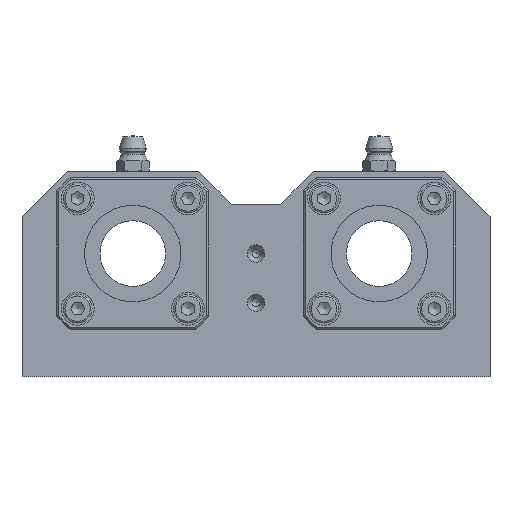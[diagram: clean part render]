
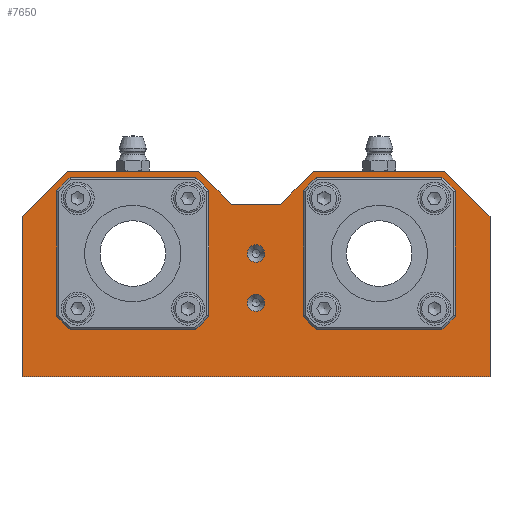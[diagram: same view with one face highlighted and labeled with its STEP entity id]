
A CAD part, left-side view. The second image highlights one B-rep face of the part: STEP entity #7650.
In plain terms, the highlighted planar face has unit normal (-1, 0, 0).
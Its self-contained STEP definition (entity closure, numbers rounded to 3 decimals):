
#7121=CARTESIAN_POINT('',(0.0,-57.0,0.0));
#7122=VERTEX_POINT('',#7121);
#7129=CARTESIAN_POINT('',(0.0,57.0,0.0));
#7130=VERTEX_POINT('',#7129);
#7131=CARTESIAN_POINT('',(0.0,57.0,0.0));
#7132=DIRECTION('',(0.0,-1.0,0.0));
#7133=VECTOR('',#7132,114.0);
#7134=LINE('',#7131,#7133);
#7135=EDGE_CURVE('',#7130,#7122,#7134,.T.);
#7190=CARTESIAN_POINT('',(0.0,-57.0,39.0));
#7191=VERTEX_POINT('',#7190);
#7198=CARTESIAN_POINT('',(0.0,-57.0,0.0));
#7199=DIRECTION('',(0.0,0.0,1.0));
#7200=VECTOR('',#7199,39.0);
#7201=LINE('',#7198,#7200);
#7202=EDGE_CURVE('',#7122,#7191,#7201,.T.);
#7431=CARTESIAN_POINT('',(0.0,14.,50.0));
#7432=VERTEX_POINT('',#7431);
#7439=CARTESIAN_POINT('',(0.0,6.,42.0));
#7440=VERTEX_POINT('',#7439);
#7441=CARTESIAN_POINT('',(0.0,14.,50.0));
#7442=DIRECTION('',(0.0,-0.707,-0.707));
#7443=VECTOR('',#7442,11.314);
#7444=LINE('',#7441,#7443);
#7445=EDGE_CURVE('',#7432,#7440,#7444,.T.);
#7456=CARTESIAN_POINT('',(0.0,-57.0,0.0));
#7457=DIRECTION('',(-1.0,0.0,0.0));
#7458=DIRECTION('',(0.0,0.0,1.0));
#7459=AXIS2_PLACEMENT_3D('',#7456,#7457,#7458);
#7460=PLANE('',#7459);
#7461=ORIENTED_EDGE('',*,*,#7445,.F.);
#7462=CARTESIAN_POINT('',(0.0,46.,50.0));
#7463=VERTEX_POINT('',#7462);
#7464=CARTESIAN_POINT('',(0.0,14.,50.0));
#7465=DIRECTION('',(0.0,1.0,0.0));
#7466=VECTOR('',#7465,32.);
#7467=LINE('',#7464,#7466);
#7468=EDGE_CURVE('',#7432,#7463,#7467,.T.);
#7469=ORIENTED_EDGE('',*,*,#7468,.T.);
#7470=CARTESIAN_POINT('',(0.0,57.0,39.0));
#7471=VERTEX_POINT('',#7470);
#7472=CARTESIAN_POINT('',(0.0,57.0,39.0));
#7473=DIRECTION('',(0.0,-0.707,0.707));
#7474=VECTOR('',#7473,15.556);
#7475=LINE('',#7472,#7474);
#7476=EDGE_CURVE('',#7471,#7463,#7475,.T.);
#7477=ORIENTED_EDGE('',*,*,#7476,.F.);
#7478=CARTESIAN_POINT('',(0.0,57.0,0.0));
#7479=DIRECTION('',(0.0,0.0,1.0));
#7480=VECTOR('',#7479,39.0);
#7481=LINE('',#7478,#7480);
#7482=EDGE_CURVE('',#7130,#7471,#7481,.T.);
#7483=ORIENTED_EDGE('',*,*,#7482,.F.);
#7484=ORIENTED_EDGE('',*,*,#7135,.T.);
#7485=ORIENTED_EDGE('',*,*,#7202,.T.);
#7486=CARTESIAN_POINT('',(0.0,-46.,50.0));
#7487=VERTEX_POINT('',#7486);
#7488=CARTESIAN_POINT('',(0.0,-46.,50.0));
#7489=DIRECTION('',(0.0,-0.707,-0.707));
#7490=VECTOR('',#7489,15.556);
#7491=LINE('',#7488,#7490);
#7492=EDGE_CURVE('',#7487,#7191,#7491,.T.);
#7493=ORIENTED_EDGE('',*,*,#7492,.F.);
#7494=CARTESIAN_POINT('',(0.0,-14.,50.0));
#7495=VERTEX_POINT('',#7494);
#7496=CARTESIAN_POINT('',(0.0,-46.,50.0));
#7497=DIRECTION('',(0.0,1.0,0.0));
#7498=VECTOR('',#7497,32.);
#7499=LINE('',#7496,#7498);
#7500=EDGE_CURVE('',#7487,#7495,#7499,.T.);
#7501=ORIENTED_EDGE('',*,*,#7500,.T.);
#7502=CARTESIAN_POINT('',(0.0,-6.,42.0));
#7503=VERTEX_POINT('',#7502);
#7504=CARTESIAN_POINT('',(0.0,-6.,42.0));
#7505=DIRECTION('',(0.0,-0.707,0.707));
#7506=VECTOR('',#7505,11.314);
#7507=LINE('',#7504,#7506);
#7508=EDGE_CURVE('',#7503,#7495,#7507,.T.);
#7509=ORIENTED_EDGE('',*,*,#7508,.F.);
#7510=CARTESIAN_POINT('',(0.0,-6.,42.0));
#7511=DIRECTION('',(0.0,1.0,0.0));
#7512=VECTOR('',#7511,12.);
#7513=LINE('',#7510,#7512);
#7514=EDGE_CURVE('',#7503,#7440,#7513,.T.);
#7515=ORIENTED_EDGE('',*,*,#7514,.T.);
#7516=EDGE_LOOP('',(#7461,#7469,#7477,#7483,#7484,#7485,#7493,#7501,#7509,#7515));
#7517=FACE_OUTER_BOUND('',#7516,.T.);
#7518=CARTESIAN_POINT('',(0.0,16.565,41.435));
#7519=VERTEX_POINT('',#7518);
#7520=CARTESIAN_POINT('',(0.0,16.565,43.435));
#7521=DIRECTION('',(1.0,0.0,0.0));
#7522=DIRECTION('',(0.0,0.0,-1.0));
#7523=AXIS2_PLACEMENT_3D('',#7520,#7521,#7522);
#7524=CIRCLE('',#7523,2.0);
#7525=EDGE_CURVE('',#7519,#7519,#7524,.T.);
#7526=ORIENTED_EDGE('',*,*,#7525,.T.);
#7527=EDGE_LOOP('',(#7526));
#7528=FACE_BOUND('',#7527,.T.);
#7529=CARTESIAN_POINT('',(0.0,18.565,16.565));
#7530=VERTEX_POINT('',#7529);
#7531=CARTESIAN_POINT('',(0.0,16.565,16.565));
#7532=DIRECTION('',(1.0,0.0,0.0));
#7533=DIRECTION('',(0.0,1.0,0.0));
#7534=AXIS2_PLACEMENT_3D('',#7531,#7532,#7533);
#7535=CIRCLE('',#7534,2.0);
#7536=EDGE_CURVE('',#7530,#7530,#7535,.T.);
#7537=ORIENTED_EDGE('',*,*,#7536,.T.);
#7538=EDGE_LOOP('',(#7537));
#7539=FACE_BOUND('',#7538,.T.);
#7540=CARTESIAN_POINT('',(0.0,43.435,18.565));
#7541=VERTEX_POINT('',#7540);
#7542=CARTESIAN_POINT('',(0.0,43.435,16.565));
#7543=DIRECTION('',(1.0,0.0,0.0));
#7544=DIRECTION('',(0.0,0.0,1.0));
#7545=AXIS2_PLACEMENT_3D('',#7542,#7543,#7544);
#7546=CIRCLE('',#7545,2.0);
#7547=EDGE_CURVE('',#7541,#7541,#7546,.T.);
#7548=ORIENTED_EDGE('',*,*,#7547,.T.);
#7549=EDGE_LOOP('',(#7548));
#7550=FACE_BOUND('',#7549,.T.);
#7551=CARTESIAN_POINT('',(0.0,16.,30.0));
#7552=VERTEX_POINT('',#7551);
#7553=CARTESIAN_POINT('',(0.0,30.,30.0));
#7554=DIRECTION('',(1.0,0.0,0.0));
#7555=DIRECTION('',(0.0,1.0,0.0));
#7556=AXIS2_PLACEMENT_3D('',#7553,#7554,#7555);
#7557=CIRCLE('',#7556,14.);
#7558=EDGE_CURVE('',#7552,#7552,#7557,.T.);
#7559=ORIENTED_EDGE('',*,*,#7558,.T.);
#7560=EDGE_LOOP('',(#7559));
#7561=FACE_BOUND('',#7560,.T.);
#7562=CARTESIAN_POINT('',(0.0,41.435,43.435));
#7563=VERTEX_POINT('',#7562);
#7564=CARTESIAN_POINT('',(0.0,43.435,43.435));
#7565=DIRECTION('',(1.0,0.0,0.0));
#7566=DIRECTION('',(0.0,-1.0,0.0));
#7567=AXIS2_PLACEMENT_3D('',#7564,#7565,#7566);
#7568=CIRCLE('',#7567,2.0);
#7569=EDGE_CURVE('',#7563,#7563,#7568,.T.);
#7570=ORIENTED_EDGE('',*,*,#7569,.T.);
#7571=EDGE_LOOP('',(#7570));
#7572=FACE_BOUND('',#7571,.T.);
#7573=CARTESIAN_POINT('',(0.0,2.125,30.0));
#7574=VERTEX_POINT('',#7573);
#7575=CARTESIAN_POINT('',(0.0,0.0,30.0));
#7576=DIRECTION('',(1.0,0.0,0.0));
#7577=DIRECTION('',(0.0,1.0,0.0));
#7578=AXIS2_PLACEMENT_3D('',#7575,#7576,#7577);
#7579=CIRCLE('',#7578,2.125);
#7580=EDGE_CURVE('',#7574,#7574,#7579,.T.);
#7581=ORIENTED_EDGE('',*,*,#7580,.T.);
#7582=EDGE_LOOP('',(#7581));
#7583=FACE_BOUND('',#7582,.T.);
#7584=CARTESIAN_POINT('',(0.0,2.125,18.0));
#7585=VERTEX_POINT('',#7584);
#7586=CARTESIAN_POINT('',(0.0,0.,18.0));
#7587=DIRECTION('',(1.0,0.0,0.0));
#7588=DIRECTION('',(0.0,1.0,0.0));
#7589=AXIS2_PLACEMENT_3D('',#7586,#7587,#7588);
#7590=CIRCLE('',#7589,2.125);
#7591=EDGE_CURVE('',#7585,#7585,#7590,.T.);
#7592=ORIENTED_EDGE('',*,*,#7591,.T.);
#7593=EDGE_LOOP('',(#7592));
#7594=FACE_BOUND('',#7593,.T.);
#7595=CARTESIAN_POINT('',(0.0,-16.565,41.435));
#7596=VERTEX_POINT('',#7595);
#7597=CARTESIAN_POINT('',(0.0,-16.565,43.435));
#7598=DIRECTION('',(1.0,0.0,0.0));
#7599=DIRECTION('',(0.0,0.0,-1.0));
#7600=AXIS2_PLACEMENT_3D('',#7597,#7598,#7599);
#7601=CIRCLE('',#7600,2.0);
#7602=EDGE_CURVE('',#7596,#7596,#7601,.T.);
#7603=ORIENTED_EDGE('',*,*,#7602,.T.);
#7604=EDGE_LOOP('',(#7603));
#7605=FACE_BOUND('',#7604,.T.);
#7606=CARTESIAN_POINT('',(0.0,-18.565,16.565));
#7607=VERTEX_POINT('',#7606);
#7608=CARTESIAN_POINT('',(0.0,-16.565,16.565));
#7609=DIRECTION('',(1.0,0.0,0.0));
#7610=DIRECTION('',(0.0,-1.0,0.0));
#7611=AXIS2_PLACEMENT_3D('',#7608,#7609,#7610);
#7612=CIRCLE('',#7611,2.0);
#7613=EDGE_CURVE('',#7607,#7607,#7612,.T.);
#7614=ORIENTED_EDGE('',*,*,#7613,.T.);
#7615=EDGE_LOOP('',(#7614));
#7616=FACE_BOUND('',#7615,.T.);
#7617=CARTESIAN_POINT('',(0.0,-43.435,18.565));
#7618=VERTEX_POINT('',#7617);
#7619=CARTESIAN_POINT('',(0.0,-43.435,16.565));
#7620=DIRECTION('',(1.0,0.0,0.0));
#7621=DIRECTION('',(0.0,0.0,1.0));
#7622=AXIS2_PLACEMENT_3D('',#7619,#7620,#7621);
#7623=CIRCLE('',#7622,2.0);
#7624=EDGE_CURVE('',#7618,#7618,#7623,.T.);
#7625=ORIENTED_EDGE('',*,*,#7624,.T.);
#7626=EDGE_LOOP('',(#7625));
#7627=FACE_BOUND('',#7626,.T.);
#7628=CARTESIAN_POINT('',(0.0,-41.435,43.435));
#7629=VERTEX_POINT('',#7628);
#7630=CARTESIAN_POINT('',(0.0,-43.435,43.435));
#7631=DIRECTION('',(1.0,0.0,0.0));
#7632=DIRECTION('',(0.0,1.0,0.0));
#7633=AXIS2_PLACEMENT_3D('',#7630,#7631,#7632);
#7634=CIRCLE('',#7633,2.0);
#7635=EDGE_CURVE('',#7629,#7629,#7634,.T.);
#7636=ORIENTED_EDGE('',*,*,#7635,.T.);
#7637=EDGE_LOOP('',(#7636));
#7638=FACE_BOUND('',#7637,.T.);
#7639=CARTESIAN_POINT('',(0.0,-16.,30.0));
#7640=VERTEX_POINT('',#7639);
#7641=CARTESIAN_POINT('',(0.0,-30.,30.0));
#7642=DIRECTION('',(1.0,0.0,0.0));
#7643=DIRECTION('',(0.0,-1.0,0.0));
#7644=AXIS2_PLACEMENT_3D('',#7641,#7642,#7643);
#7645=CIRCLE('',#7644,14.);
#7646=EDGE_CURVE('',#7640,#7640,#7645,.T.);
#7647=ORIENTED_EDGE('',*,*,#7646,.T.);
#7648=EDGE_LOOP('',(#7647));
#7649=FACE_BOUND('',#7648,.T.);
#7650=ADVANCED_FACE('',(#7517,#7528,#7539,#7550,#7561,#7572,#7583,#7594,#7605,#7616,#7627,#7638,#7649),#7460,.T.);
